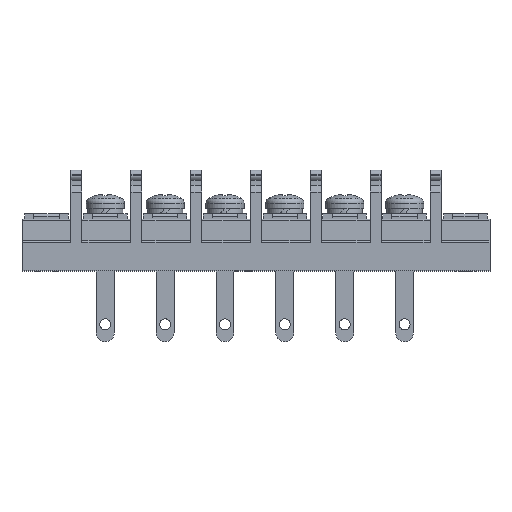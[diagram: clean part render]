
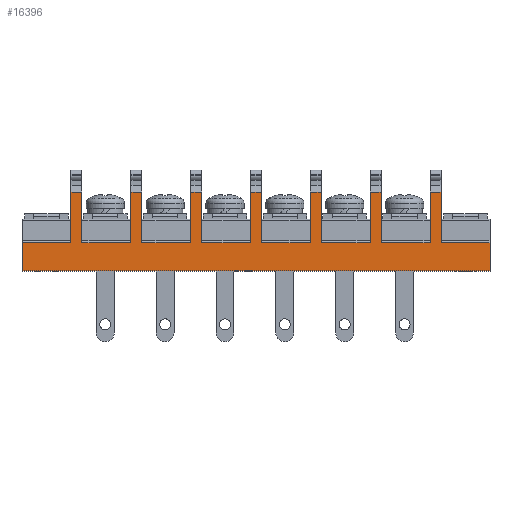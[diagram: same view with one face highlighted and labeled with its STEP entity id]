
A CAD part, top view. The second image highlights one B-rep face of the part: STEP entity #16396.
In plain terms, the highlighted planar face has unit normal (0, 0, 1).
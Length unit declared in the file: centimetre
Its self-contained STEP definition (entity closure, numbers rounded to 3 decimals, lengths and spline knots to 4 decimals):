
#984=VECTOR('',#17644,1.);
#986=VECTOR('',#17654,1.);
#1469=VECTOR('',#18429,1.);
#1489=VECTOR('',#18479,1.);
#1491=VECTOR('',#18484,1.);
#1499=VECTOR('',#18502,1.);
#1532=VECTOR('',#18579,1.);
#1539=VECTOR('',#18591,1.);
#1572=VECTOR('',#18658,1.);
#1584=VECTOR('',#18691,1.);
#1586=VECTOR('',#18694,1.);
#1678=VECTOR('',#18959,1.);
#1708=VECTOR('',#19023,1.);
#1719=VECTOR('',#19052,1.);
#1721=VECTOR('',#19055,1.);
#1813=VECTOR('',#19320,1.);
#1843=VECTOR('',#19384,1.);
#1854=VECTOR('',#19413,1.);
#1856=VECTOR('',#19416,1.);
#1948=VECTOR('',#19681,1.);
#1978=VECTOR('',#19745,1.);
#1989=VECTOR('',#19774,1.);
#1991=VECTOR('',#19777,1.);
#2083=VECTOR('',#20042,1.);
#2113=VECTOR('',#20106,1.);
#2124=VECTOR('',#20135,1.);
#2126=VECTOR('',#20138,1.);
#2218=VECTOR('',#20403,1.);
#2255=VECTOR('',#20476,1.);
#2256=VECTOR('',#20477,1.);
#2266=VECTOR('',#20492,1.);
#2267=VECTOR('',#20494,1.);
#2731=LINE('',#22167,#984);
#2733=LINE('',#22176,#986);
#3216=LINE('',#23986,#1469);
#3236=LINE('',#24043,#1489);
#3238=LINE('',#24049,#1491);
#3246=LINE('',#24074,#1499);
#3279=LINE('',#24168,#1532);
#3286=LINE('',#24185,#1539);
#3319=LINE('',#24269,#1572);
#3331=LINE('',#24309,#1584);
#3333=LINE('',#24312,#1586);
#3425=LINE('',#24643,#1678);
#3455=LINE('',#24727,#1708);
#3466=LINE('',#24763,#1719);
#3468=LINE('',#24766,#1721);
#3560=LINE('',#25097,#1813);
#3590=LINE('',#25181,#1843);
#3601=LINE('',#25217,#1854);
#3603=LINE('',#25220,#1856);
#3695=LINE('',#25551,#1948);
#3725=LINE('',#25635,#1978);
#3736=LINE('',#25671,#1989);
#3738=LINE('',#25674,#1991);
#3830=LINE('',#26005,#2083);
#3860=LINE('',#26089,#2113);
#3871=LINE('',#26125,#2124);
#3873=LINE('',#26128,#2126);
#3965=LINE('',#26459,#2218);
#4002=LINE('',#26553,#2255);
#4003=LINE('',#26554,#2256);
#4013=LINE('',#26578,#2266);
#4014=LINE('',#26580,#2267);
#4530=VERTEX_POINT('',#22146);
#4540=VERTEX_POINT('',#22166);
#4543=VERTEX_POINT('',#22175);
#4976=VERTEX_POINT('',#23984);
#4978=VERTEX_POINT('',#23987);
#4998=VERTEX_POINT('',#24044);
#5000=VERTEX_POINT('',#24050);
#5009=VERTEX_POINT('',#24069);
#5011=VERTEX_POINT('',#24073);
#5047=VERTEX_POINT('',#24167);
#5083=VERTEX_POINT('',#24268);
#5084=VERTEX_POINT('',#24270);
#5100=VERTEX_POINT('',#24308);
#5190=VERTEX_POINT('',#24642);
#5224=VERTEX_POINT('',#24726);
#5225=VERTEX_POINT('',#24728);
#5240=VERTEX_POINT('',#24762);
#5330=VERTEX_POINT('',#25096);
#5364=VERTEX_POINT('',#25180);
#5365=VERTEX_POINT('',#25182);
#5380=VERTEX_POINT('',#25216);
#5470=VERTEX_POINT('',#25550);
#5504=VERTEX_POINT('',#25634);
#5505=VERTEX_POINT('',#25636);
#5520=VERTEX_POINT('',#25670);
#5610=VERTEX_POINT('',#26004);
#5644=VERTEX_POINT('',#26088);
#5645=VERTEX_POINT('',#26090);
#5660=VERTEX_POINT('',#26124);
#5750=VERTEX_POINT('',#26458);
#5786=VERTEX_POINT('',#26552);
#5787=VERTEX_POINT('',#26555);
#6715=EDGE_CURVE('',#4530,#4540,#2731,.T.);
#6719=EDGE_CURVE('',#4543,#4540,#2733,.T.);
#7360=EDGE_CURVE('',#4978,#4976,#3216,.T.);
#7388=EDGE_CURVE('',#4998,#4978,#3236,.T.);
#7391=EDGE_CURVE('',#5000,#4998,#3238,.T.);
#7403=EDGE_CURVE('',#5011,#5009,#3246,.T.);
#7451=EDGE_CURVE('',#5011,#5047,#3279,.T.);
#7461=EDGE_CURVE('',#5000,#5047,#3286,.T.);
#7503=EDGE_CURVE('',#5084,#5083,#3319,.T.);
#7525=EDGE_CURVE('',#4543,#5100,#3331,.T.);
#7527=EDGE_CURVE('',#5084,#5100,#3333,.T.);
#7671=EDGE_CURVE('',#5190,#5083,#3425,.T.);
#7713=EDGE_CURVE('',#5225,#5224,#3455,.T.);
#7733=EDGE_CURVE('',#5190,#5240,#3466,.T.);
#7735=EDGE_CURVE('',#5225,#5240,#3468,.T.);
#7879=EDGE_CURVE('',#5330,#5224,#3560,.T.);
#7921=EDGE_CURVE('',#5365,#5364,#3590,.T.);
#7941=EDGE_CURVE('',#5330,#5380,#3601,.T.);
#7943=EDGE_CURVE('',#5365,#5380,#3603,.T.);
#8087=EDGE_CURVE('',#5470,#5364,#3695,.T.);
#8129=EDGE_CURVE('',#5505,#5504,#3725,.T.);
#8149=EDGE_CURVE('',#5470,#5520,#3736,.T.);
#8151=EDGE_CURVE('',#5505,#5520,#3738,.T.);
#8295=EDGE_CURVE('',#5610,#5504,#3830,.T.);
#8337=EDGE_CURVE('',#5645,#5644,#3860,.T.);
#8357=EDGE_CURVE('',#5610,#5660,#3871,.T.);
#8359=EDGE_CURVE('',#5645,#5660,#3873,.T.);
#8503=EDGE_CURVE('',#5750,#5644,#3965,.T.);
#8551=EDGE_CURVE('',#5750,#5786,#4002,.T.);
#8552=EDGE_CURVE('',#5787,#5009,#4003,.T.);
#8565=EDGE_CURVE('',#4530,#4976,#4013,.T.);
#8566=EDGE_CURVE('',#5787,#5786,#4014,.T.);
#13277=ORIENTED_EDGE('',*,*,#8565,.F.);
#13278=ORIENTED_EDGE('',*,*,#6715,.T.);
#13279=ORIENTED_EDGE('',*,*,#6719,.F.);
#13280=ORIENTED_EDGE('',*,*,#7525,.T.);
#13281=ORIENTED_EDGE('',*,*,#7527,.F.);
#13282=ORIENTED_EDGE('',*,*,#7503,.T.);
#13283=ORIENTED_EDGE('',*,*,#7671,.F.);
#13284=ORIENTED_EDGE('',*,*,#7733,.T.);
#13285=ORIENTED_EDGE('',*,*,#7735,.F.);
#13286=ORIENTED_EDGE('',*,*,#7713,.T.);
#13287=ORIENTED_EDGE('',*,*,#7879,.F.);
#13288=ORIENTED_EDGE('',*,*,#7941,.T.);
#13289=ORIENTED_EDGE('',*,*,#7943,.F.);
#13290=ORIENTED_EDGE('',*,*,#7921,.T.);
#13291=ORIENTED_EDGE('',*,*,#8087,.F.);
#13292=ORIENTED_EDGE('',*,*,#8149,.T.);
#13293=ORIENTED_EDGE('',*,*,#8151,.F.);
#13294=ORIENTED_EDGE('',*,*,#8129,.T.);
#13295=ORIENTED_EDGE('',*,*,#8295,.F.);
#13296=ORIENTED_EDGE('',*,*,#8357,.T.);
#13297=ORIENTED_EDGE('',*,*,#8359,.F.);
#13298=ORIENTED_EDGE('',*,*,#8337,.T.);
#13299=ORIENTED_EDGE('',*,*,#8503,.F.);
#13300=ORIENTED_EDGE('',*,*,#8551,.T.);
#13301=ORIENTED_EDGE('',*,*,#8566,.F.);
#13302=ORIENTED_EDGE('',*,*,#8552,.T.);
#13303=ORIENTED_EDGE('',*,*,#7403,.F.);
#13304=ORIENTED_EDGE('',*,*,#7451,.T.);
#13305=ORIENTED_EDGE('',*,*,#7461,.F.);
#13306=ORIENTED_EDGE('',*,*,#7391,.T.);
#13307=ORIENTED_EDGE('',*,*,#7388,.T.);
#13308=ORIENTED_EDGE('',*,*,#7360,.T.);
#14468=EDGE_LOOP('',(#13277,#13278,#13279,#13280,#13281,#13282,#13283,#13284,
#13285,#13286,#13287,#13288,#13289,#13290,#13291,#13292,#13293,#13294,#13295,
#13296,#13297,#13298,#13299,#13300,#13301,#13302,#13303,#13304,#13305,#13306,
#13307,#13308));
#15492=FACE_BOUND('',#14468,.T.);
#16396=ADVANCED_FACE('',(#15492),#17013,.T.);
#17013=PLANE('',#27832);
#17644=DIRECTION('',(0.,1.,0.));
#17654=DIRECTION('',(1.,0.,0.));
#18429=DIRECTION('',(0.,-1.,0.));
#18479=DIRECTION('',(-1.,0.,0.));
#18484=DIRECTION('',(0.,-1.,0.));
#18502=DIRECTION('',(1.,0.,0.));
#18579=DIRECTION('',(0.,1.,0.));
#18591=DIRECTION('',(1.,0.,0.));
#18658=DIRECTION('',(0.,-1.,0.));
#18691=DIRECTION('',(0.,1.,0.));
#18694=DIRECTION('',(1.,0.,0.));
#18959=DIRECTION('',(1.,0.,0.));
#19023=DIRECTION('',(0.,-1.,0.));
#19052=DIRECTION('',(0.,1.,0.));
#19055=DIRECTION('',(1.,0.,0.));
#19320=DIRECTION('',(1.,0.,0.));
#19384=DIRECTION('',(0.,-1.,0.));
#19413=DIRECTION('',(0.,1.,0.));
#19416=DIRECTION('',(1.,0.,0.));
#19681=DIRECTION('',(1.,0.,0.));
#19745=DIRECTION('',(0.,-1.,0.));
#19774=DIRECTION('',(0.,1.,0.));
#19777=DIRECTION('',(1.,0.,0.));
#20042=DIRECTION('',(1.,0.,0.));
#20106=DIRECTION('',(0.,-1.,0.));
#20135=DIRECTION('',(0.,1.,0.));
#20138=DIRECTION('',(1.,0.,0.));
#20403=DIRECTION('',(1.,0.,0.));
#20476=DIRECTION('',(0.,1.,0.));
#20477=DIRECTION('',(0.,-1.,0.));
#20492=DIRECTION('',(-1.,0.,0.));
#20493=DIRECTION('',(0.,0.,1.));
#20494=DIRECTION('',(1.,0.,0.));
#22146=CARTESIAN_POINT('',(6.6,0.,0.85));
#22166=CARTESIAN_POINT('',(6.6,0.52,0.85));
#22167=CARTESIAN_POINT('',(6.6,0.52,0.85));
#22175=CARTESIAN_POINT('',(5.7,0.52,0.85));
#22176=CARTESIAN_POINT('',(5.7,0.52,0.85));
#23984=CARTESIAN_POINT('',(-2.,0.,0.85));
#23986=CARTESIAN_POINT('',(-2.,0.,0.85));
#23987=CARTESIAN_POINT('',(-2.,0.52,0.85));
#24043=CARTESIAN_POINT('',(-1.1,0.52,0.85));
#24044=CARTESIAN_POINT('',(-1.1,0.52,0.85));
#24049=CARTESIAN_POINT('',(-1.1,1.45,0.85));
#24050=CARTESIAN_POINT('',(-1.1,1.45,0.85));
#24069=CARTESIAN_POINT('',(0.,0.52,0.85));
#24073=CARTESIAN_POINT('',(-0.9,0.52,0.85));
#24074=CARTESIAN_POINT('',(-0.9,0.52,0.85));
#24167=CARTESIAN_POINT('',(-0.9,1.45,0.85));
#24168=CARTESIAN_POINT('',(-0.9,1.45,0.85));
#24185=CARTESIAN_POINT('',(-1.1,1.45,0.85));
#24268=CARTESIAN_POINT('',(5.5,0.52,0.85));
#24269=CARTESIAN_POINT('',(5.5,1.45,0.85));
#24270=CARTESIAN_POINT('',(5.5,1.45,0.85));
#24308=CARTESIAN_POINT('',(5.7,1.45,0.85));
#24309=CARTESIAN_POINT('',(5.7,1.45,0.85));
#24312=CARTESIAN_POINT('',(5.5,1.45,0.85));
#24642=CARTESIAN_POINT('',(4.6,0.52,0.85));
#24643=CARTESIAN_POINT('',(4.6,0.52,0.85));
#24726=CARTESIAN_POINT('',(4.4,0.52,0.85));
#24727=CARTESIAN_POINT('',(4.4,1.45,0.85));
#24728=CARTESIAN_POINT('',(4.4,1.45,0.85));
#24762=CARTESIAN_POINT('',(4.6,1.45,0.85));
#24763=CARTESIAN_POINT('',(4.6,1.45,0.85));
#24766=CARTESIAN_POINT('',(4.4,1.45,0.85));
#25096=CARTESIAN_POINT('',(3.5,0.52,0.85));
#25097=CARTESIAN_POINT('',(3.5,0.52,0.85));
#25180=CARTESIAN_POINT('',(3.3,0.52,0.85));
#25181=CARTESIAN_POINT('',(3.3,1.45,0.85));
#25182=CARTESIAN_POINT('',(3.3,1.45,0.85));
#25216=CARTESIAN_POINT('',(3.5,1.45,0.85));
#25217=CARTESIAN_POINT('',(3.5,1.45,0.85));
#25220=CARTESIAN_POINT('',(3.3,1.45,0.85));
#25550=CARTESIAN_POINT('',(2.4,0.52,0.85));
#25551=CARTESIAN_POINT('',(2.4,0.52,0.85));
#25634=CARTESIAN_POINT('',(2.2,0.52,0.85));
#25635=CARTESIAN_POINT('',(2.2,1.45,0.85));
#25636=CARTESIAN_POINT('',(2.2,1.45,0.85));
#25670=CARTESIAN_POINT('',(2.4,1.45,0.85));
#25671=CARTESIAN_POINT('',(2.4,1.45,0.85));
#25674=CARTESIAN_POINT('',(2.2,1.45,0.85));
#26004=CARTESIAN_POINT('',(1.3,0.52,0.85));
#26005=CARTESIAN_POINT('',(1.3,0.52,0.85));
#26088=CARTESIAN_POINT('',(1.1,0.52,0.85));
#26089=CARTESIAN_POINT('',(1.1,1.45,0.85));
#26090=CARTESIAN_POINT('',(1.1,1.45,0.85));
#26124=CARTESIAN_POINT('',(1.3,1.45,0.85));
#26125=CARTESIAN_POINT('',(1.3,1.45,0.85));
#26128=CARTESIAN_POINT('',(1.1,1.45,0.85));
#26458=CARTESIAN_POINT('',(0.2,0.52,0.85));
#26459=CARTESIAN_POINT('',(0.2,0.52,0.85));
#26552=CARTESIAN_POINT('',(0.2,1.45,0.85));
#26553=CARTESIAN_POINT('',(0.2,1.45,0.85));
#26554=CARTESIAN_POINT('',(0.,1.45,0.85));
#26555=CARTESIAN_POINT('',(0.,1.45,0.85));
#26578=CARTESIAN_POINT('',(-1.1,0.,0.85));
#26579=CARTESIAN_POINT('',(0.,0.725,0.85));
#26580=CARTESIAN_POINT('',(0.,1.45,0.85));
#27832=AXIS2_PLACEMENT_3D('',#26579,#20493,$);
